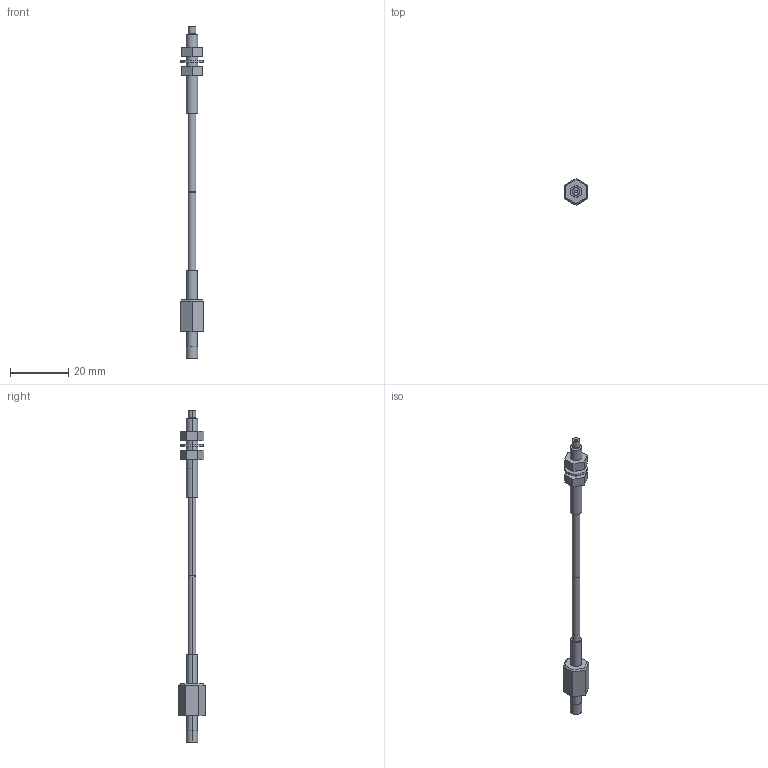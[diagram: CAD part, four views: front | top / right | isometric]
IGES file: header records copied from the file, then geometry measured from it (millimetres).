
Start section: SolidWorks IGES FILE using analytic representation for surfaces
Global section: file name: \\intra-srv04\開発データ\CAD_Data\CAD委員会\3D電子ｶﾀﾛｸﾞ\製品カタログ（新）\0_IGES\FT-H30-M1V.IGS,41HSolidWorks 2004; native system: by SolidWorks Corporation; preprocessor: Version 5.3; author: mf1158; date: 050908.105037; units: millimetre
Bounding box: 8 x 9.24 x 114 mm (x, y, z)
Volume: 1668.4 mm3; surface area: 2192.5 mm2
Topology: 6 solids, 6 shells, 74 faces, 156 edges, 102 vertices
Faces by surface type: plane 44, revolution 30
